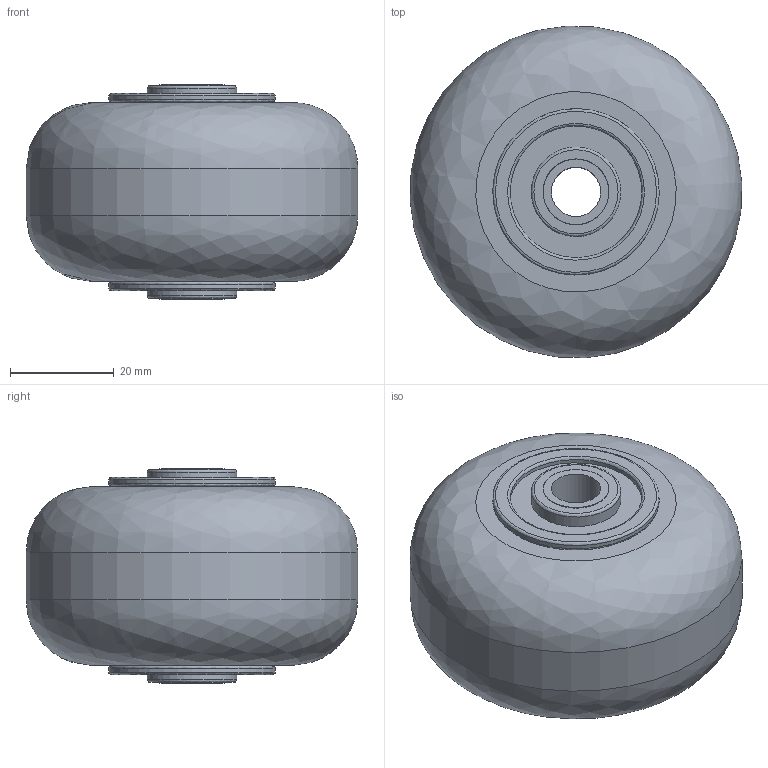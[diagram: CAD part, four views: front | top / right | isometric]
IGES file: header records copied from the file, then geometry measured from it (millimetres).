
Global section: file name: No Iges File Name specified; native system: AutoDesk Inventor R6.0; preprocessor: AutoDesk Inventor Iges Exporter R6.0; author: No Author specified; organization: No Organization specified; date: 20080104.191100; units: inch
Bounding box: 64.03 x 64.03 x 41.4 mm (x, y, z)
Surface area: 21537.1 mm2 (no closed solid volume)
Topology: 0 solids, 0 shells, 40 faces, 106 edges, 80 vertices
Faces by surface type: revolution 26, plane 14
